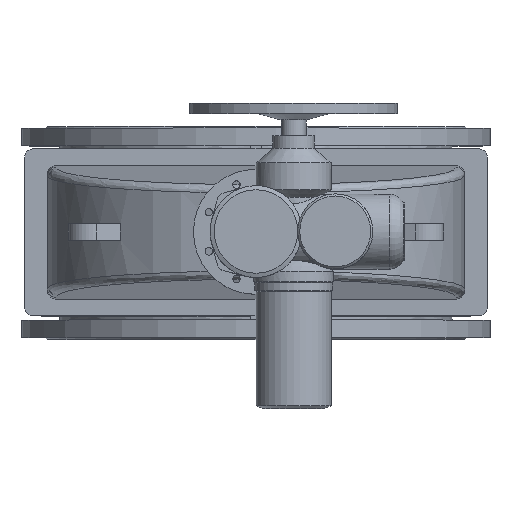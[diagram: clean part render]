
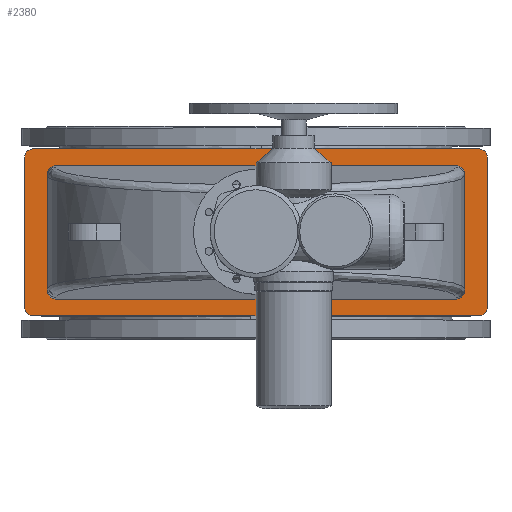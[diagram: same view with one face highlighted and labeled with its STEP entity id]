
A CAD part, top view. The second image highlights one B-rep face of the part: STEP entity #2380.
In plain terms, the highlighted planar face has unit normal (0, 0, 1).
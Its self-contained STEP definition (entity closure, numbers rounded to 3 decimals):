
#2380=ADVANCED_FACE('',(#8138,#8140),#8142,.T.);
#8138=FACE_BOUND('',#8139,.T.);
#8139=EDGE_LOOP('',(#11024,#11025,#11026,#11027,#11028,#11029,#11030,#11031));
#8140=FACE_BOUND('',#8141,.T.);
#8141=EDGE_LOOP('',(#11032,#11033,#11034,#11035,#11036,#11037,#11038,#11039));
#8142=PLANE('',#8143);
#8143=AXIS2_PLACEMENT_3D('',#8144,#8145,#8146);
#8144=CARTESIAN_POINT('',(0.,0.,1016.));
#8145=DIRECTION('',(0.,-0.,1.));
#8146=DIRECTION('',(0.,1.,0.));
#11024=ORIENTED_EDGE('',*,*,#12160,.F.);
#11025=ORIENTED_EDGE('',*,*,#12173,.T.);
#11026=ORIENTED_EDGE('',*,*,#12172,.F.);
#11027=ORIENTED_EDGE('',*,*,#12170,.T.);
#11028=ORIENTED_EDGE('',*,*,#12168,.F.);
#11029=ORIENTED_EDGE('',*,*,#12166,.T.);
#11030=ORIENTED_EDGE('',*,*,#12164,.F.);
#11031=ORIENTED_EDGE('',*,*,#12161,.T.);
#11032=ORIENTED_EDGE('',*,*,#12174,.F.);
#11033=ORIENTED_EDGE('',*,*,#12175,.F.);
#11034=ORIENTED_EDGE('',*,*,#12176,.F.);
#11035=ORIENTED_EDGE('',*,*,#12177,.F.);
#11036=ORIENTED_EDGE('',*,*,#12178,.F.);
#11037=ORIENTED_EDGE('',*,*,#12179,.F.);
#11038=ORIENTED_EDGE('',*,*,#12180,.F.);
#11039=ORIENTED_EDGE('',*,*,#12181,.F.);
#12160=EDGE_CURVE('',#13446,#13444,#13448,.F.);
#12161=EDGE_CURVE('',#13449,#13444,#13450,.T.);
#12164=EDGE_CURVE('',#13449,#13452,#13454,.F.);
#12166=EDGE_CURVE('',#13455,#13452,#13457,.T.);
#12168=EDGE_CURVE('',#13455,#13458,#13460,.F.);
#12170=EDGE_CURVE('',#13461,#13458,#13463,.T.);
#12172=EDGE_CURVE('',#13461,#13464,#13466,.F.);
#12173=EDGE_CURVE('',#13446,#13464,#13467,.T.);
#12174=EDGE_CURVE('',#13468,#13469,#13470,.F.);
#12175=EDGE_CURVE('',#13471,#13468,#13472,.T.);
#12176=EDGE_CURVE('',#13473,#13471,#13474,.T.);
#12177=EDGE_CURVE('',#13475,#13473,#13476,.T.);
#12178=EDGE_CURVE('',#13477,#13475,#13478,.F.);
#12179=EDGE_CURVE('',#13479,#13477,#13480,.T.);
#12180=EDGE_CURVE('',#13481,#13479,#13482,.T.);
#12181=EDGE_CURVE('',#13469,#13481,#13483,.T.);
#13444=VERTEX_POINT('',#17072);
#13446=VERTEX_POINT('',#17076);
#13448=CIRCLE('',#17080,20.);
#13449=VERTEX_POINT('',#17084);
#13450=LINE('',#17085,#17086);
#13452=VERTEX_POINT('',#17091);
#13454=CIRCLE('',#17095,20.);
#13455=VERTEX_POINT('',#17099);
#13457=LINE('',#17103,#17104);
#13458=VERTEX_POINT('',#17106);
#13460=CIRCLE('',#17110,20.);
#13461=VERTEX_POINT('',#17114);
#13463=LINE('',#17118,#17119);
#13464=VERTEX_POINT('',#17121);
#13466=CIRCLE('',#17125,20.);
#13467=LINE('',#17129,#17130);
#13468=VERTEX_POINT('',#17132);
#13469=VERTEX_POINT('',#17133);
#13470=(BOUNDED_CURVE()B_SPLINE_CURVE(3,
(#17134,#17135,#17136,#17137),
.UNSPECIFIED.,.F.,.F.)B_SPLINE_CURVE_WITH_KNOTS((4,4),
(0.,1.),
.UNSPECIFIED.)CURVE()GEOMETRIC_REPRESENTATION_ITEM()RATIONAL_B_SPLINE_CURVE((1.,
0.805,0.805,1.))REPRESENTATION_ITEM(''));
#13471=VERTEX_POINT('',#17138);
#13472=LINE('',#17139,#17140);
#13473=VERTEX_POINT('',#17142);
#13474=(BOUNDED_CURVE()B_SPLINE_CURVE(3,
(#17143,#17144,#17145,#17146),
.UNSPECIFIED.,.F.,.F.)B_SPLINE_CURVE_WITH_KNOTS((4,4),
(0.,1.),
.UNSPECIFIED.)CURVE()GEOMETRIC_REPRESENTATION_ITEM()RATIONAL_B_SPLINE_CURVE((1.,
0.805,0.805,1.))REPRESENTATION_ITEM(''));
#13475=VERTEX_POINT('',#17147);
#13476=LINE('',#17148,#17149);
#13477=VERTEX_POINT('',#17151);
#13478=(BOUNDED_CURVE()B_SPLINE_CURVE(3,
(#17152,#17153,#17154,#17155),
.UNSPECIFIED.,.F.,.F.)B_SPLINE_CURVE_WITH_KNOTS((4,4),
(0.,1.),
.UNSPECIFIED.)CURVE()GEOMETRIC_REPRESENTATION_ITEM()RATIONAL_B_SPLINE_CURVE((1.,
0.805,0.805,1.))REPRESENTATION_ITEM(''));
#13479=VERTEX_POINT('',#17156);
#13480=LINE('',#17157,#17158);
#13481=VERTEX_POINT('',#17160);
#13482=(BOUNDED_CURVE()B_SPLINE_CURVE(3,
(#17161,#17162,#17163,#17164),
.UNSPECIFIED.,.F.,.F.)B_SPLINE_CURVE_WITH_KNOTS((4,4),
(0.,1.),
.UNSPECIFIED.)CURVE()GEOMETRIC_REPRESENTATION_ITEM()RATIONAL_B_SPLINE_CURVE((1.,
0.805,0.805,1.))REPRESENTATION_ITEM(''));
#13483=LINE('',#17165,#17166);
#17072=CARTESIAN_POINT('',(-555.,-180.,1016.));
#17076=CARTESIAN_POINT('',(-535.,-200.,1016.));
#17080=AXIS2_PLACEMENT_3D('',#17081,#17082,#17083);
#17081=CARTESIAN_POINT('',(-535.,-180.,1016.));
#17082=DIRECTION('',(0.,-0.,1.));
#17083=DIRECTION('',(-1.,0.,0.));
#17084=CARTESIAN_POINT('',(-555.,180.,1016.));
#17085=CARTESIAN_POINT('',(-555.,180.,1016.));
#17086=VECTOR('',#17087,1.);
#17087=DIRECTION('',(0.,-1.,0.));
#17091=CARTESIAN_POINT('',(-535.,200.,1016.));
#17095=AXIS2_PLACEMENT_3D('',#17096,#17097,#17098);
#17096=CARTESIAN_POINT('',(-535.,180.,1016.));
#17097=DIRECTION('',(0.,-0.,1.));
#17098=DIRECTION('',(0.,1.,0.));
#17099=CARTESIAN_POINT('',(535.,200.,1016.));
#17103=CARTESIAN_POINT('',(535.,200.,1016.));
#17104=VECTOR('',#17105,1.);
#17105=DIRECTION('',(-1.,0.,0.));
#17106=CARTESIAN_POINT('',(555.,180.,1016.));
#17110=AXIS2_PLACEMENT_3D('',#17111,#17112,#17113);
#17111=CARTESIAN_POINT('',(535.,180.,1016.));
#17112=DIRECTION('',(0.,-0.,1.));
#17113=DIRECTION('',(1.,0.,0.));
#17114=CARTESIAN_POINT('',(555.,-180.,1016.));
#17118=CARTESIAN_POINT('',(555.,-180.,1016.));
#17119=VECTOR('',#17120,1.);
#17120=DIRECTION('',(0.,1.,0.));
#17121=CARTESIAN_POINT('',(535.,-200.,1016.));
#17125=AXIS2_PLACEMENT_3D('',#17126,#17127,#17128);
#17126=CARTESIAN_POINT('',(535.,-180.,1016.));
#17127=DIRECTION('',(0.,-0.,1.));
#17128=DIRECTION('',(0.,-1.,0.));
#17129=CARTESIAN_POINT('',(-535.,-200.,1016.));
#17130=VECTOR('',#17131,1.);
#17131=DIRECTION('',(1.,0.,0.));
#17132=CARTESIAN_POINT('',(480.,-160.,1016.));
#17133=CARTESIAN_POINT('',(500.,-139.924,1016.));
#17134=CARTESIAN_POINT('',(500.,-139.924,1016.));
#17135=CARTESIAN_POINT('',(500.,-151.684,1016.));
#17136=CARTESIAN_POINT('',(491.716,-160.,1016.));
#17137=CARTESIAN_POINT('',(480.,-160.,1016.));
#17138=CARTESIAN_POINT('',(-480.,-160.,1016.));
#17139=CARTESIAN_POINT('',(-480.,-160.,1016.));
#17140=VECTOR('',#17141,1.);
#17141=DIRECTION('',(1.,0.,0.));
#17142=CARTESIAN_POINT('',(-500.,-139.924,1016.));
#17143=CARTESIAN_POINT('',(-500.,-139.924,1016.));
#17144=CARTESIAN_POINT('',(-500.,-151.684,1016.));
#17145=CARTESIAN_POINT('',(-491.716,-160.,1016.));
#17146=CARTESIAN_POINT('',(-480.,-160.,1016.));
#17147=CARTESIAN_POINT('',(-500.,139.924,1016.));
#17148=CARTESIAN_POINT('',(-500.,139.924,1016.));
#17149=VECTOR('',#17150,1.);
#17150=DIRECTION('',(0.,-1.,0.));
#17151=CARTESIAN_POINT('',(-480.,160.,1016.));
#17152=CARTESIAN_POINT('',(-500.,139.924,1016.));
#17153=CARTESIAN_POINT('',(-500.,151.684,1016.));
#17154=CARTESIAN_POINT('',(-491.716,160.,1016.));
#17155=CARTESIAN_POINT('',(-480.,160.,1016.));
#17156=CARTESIAN_POINT('',(480.,160.,1016.));
#17157=CARTESIAN_POINT('',(480.,160.,1016.));
#17158=VECTOR('',#17159,1.);
#17159=DIRECTION('',(-1.,0.,0.));
#17160=CARTESIAN_POINT('',(500.,139.924,1016.));
#17161=CARTESIAN_POINT('',(500.,139.924,1016.));
#17162=CARTESIAN_POINT('',(500.,151.684,1016.));
#17163=CARTESIAN_POINT('',(491.716,160.,1016.));
#17164=CARTESIAN_POINT('',(480.,160.,1016.));
#17165=CARTESIAN_POINT('',(500.,-139.924,1016.));
#17166=VECTOR('',#17167,1.);
#17167=DIRECTION('',(0.,1.,0.));
